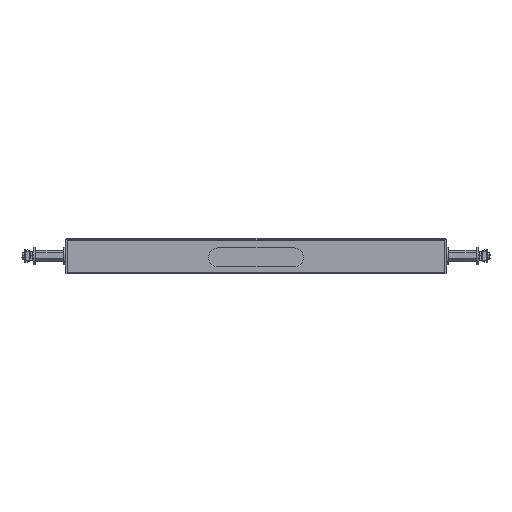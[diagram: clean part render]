
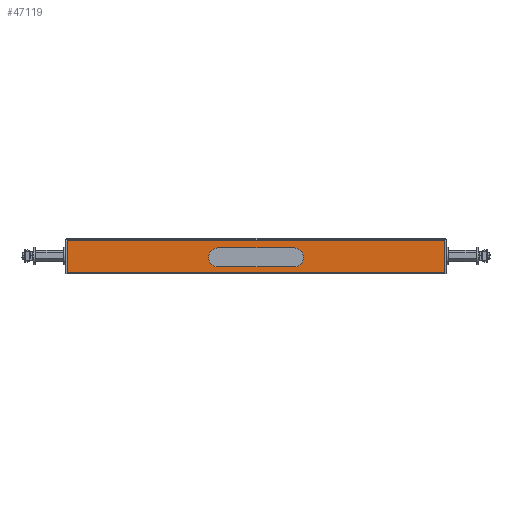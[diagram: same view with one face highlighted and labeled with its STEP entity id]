
A CAD part, top view. The second image highlights one B-rep face of the part: STEP entity #47119.
In plain terms, the highlighted planar face has unit normal (0, 0, 1) as drawn and (0, -1, 0) by its records, which use the part's own axes.
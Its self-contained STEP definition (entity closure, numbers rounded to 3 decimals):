
#1494 = ORIENTED_EDGE ( 'NONE', *, *, #6373, .F. ) ;
#1837 = CARTESIAN_POINT ( 'NONE',  ( 160., 0., -8.65 ) ) ;
#3406 = LINE ( 'NONE', #21096, #30186 ) ;
#5061 = CIRCLE ( 'NONE', #22679, 10. ) ;
#5523 = VECTOR ( 'NONE', #50519, 1000. ) ;
#5793 = ORIENTED_EDGE ( 'NONE', *, *, #22350, .F. ) ;
#6331 = VECTOR ( 'NONE', #37131, 1000. ) ;
#6358 = DIRECTION ( 'NONE',  ( 1., 0., 0. ) ) ;
#6373 = EDGE_CURVE ( 'NONE', #35668, #12082, #36860, .T. ) ;
#9587 = VERTEX_POINT ( 'NONE', #45643 ) ;
#10664 = FACE_BOUND ( 'NONE', #38357, .T. ) ;
#10687 = EDGE_CURVE ( 'NONE', #53211, #12082, #11669, .T. ) ;
#10947 = LINE ( 'NONE', #16644, #5523 ) ;
#11153 = ORIENTED_EDGE ( 'NONE', *, *, #20147, .F. ) ;
#11561 = CARTESIAN_POINT ( 'NONE',  ( 398.55, 0., -1. ) ) ;
#11616 = VECTOR ( 'NONE', #49029, 1000. ) ;
#11669 = LINE ( 'NONE', #29379, #19480 ) ;
#11791 = FACE_OUTER_BOUND ( 'NONE', #50356, .T. ) ;
#12082 = VERTEX_POINT ( 'NONE', #45648 ) ;
#12156 = VERTEX_POINT ( 'NONE', #14242 ) ;
#13425 = CARTESIAN_POINT ( 'NONE',  ( 1.45, 0., -1. ) ) ;
#14242 = CARTESIAN_POINT ( 'NONE',  ( 240., 0., -28.65 ) ) ;
#14508 = ORIENTED_EDGE ( 'NONE', *, *, #10687, .T. ) ;
#15244 = AXIS2_PLACEMENT_3D ( 'NONE', #33879, #33296, #42609 ) ;
#16292 = VERTEX_POINT ( 'NONE', #51264 ) ;
#16644 = CARTESIAN_POINT ( 'NONE',  ( 160., 0., -8.65 ) ) ;
#17020 = DIRECTION ( 'NONE',  ( 0., -1., 0. ) ) ;
#18889 = VECTOR ( 'NONE', #6358, 1000. ) ;
#19426 = VERTEX_POINT ( 'NONE', #1837 ) ;
#19480 = VECTOR ( 'NONE', #41358, 1000. ) ;
#20147 = EDGE_CURVE ( 'NONE', #12156, #9587, #5061, .T. ) ;
#21096 = CARTESIAN_POINT ( 'NONE',  ( 1.45, 0., -1. ) ) ;
#22041 = CARTESIAN_POINT ( 'NONE',  ( 240., 0., -18.65 ) ) ;
#22260 = EDGE_CURVE ( 'NONE', #45824, #53211, #3406, .T. ) ;
#22350 = EDGE_CURVE ( 'NONE', #45824, #35668, #54253, .T. ) ;
#22525 = CARTESIAN_POINT ( 'NONE',  ( 160., 0., -18.65 ) ) ;
#22679 = AXIS2_PLACEMENT_3D ( 'NONE', #22041, #39785, #43017 ) ;
#23689 = CARTESIAN_POINT ( 'NONE',  ( 397.65, 0., -1. ) ) ;
#24722 = AXIS2_PLACEMENT_3D ( 'NONE', #22525, #17020, #48431 ) ;
#29379 = CARTESIAN_POINT ( 'NONE',  ( 2.35, 0., -34.65 ) ) ;
#29736 = ORIENTED_EDGE ( 'NONE', *, *, #22260, .T. ) ;
#30186 = VECTOR ( 'NONE', #57192, 1000. ) ;
#33296 = DIRECTION ( 'NONE',  ( 0., 1., 0. ) ) ;
#33879 = CARTESIAN_POINT ( 'NONE',  ( 2.35, 0., 0. ) ) ;
#35029 = CARTESIAN_POINT ( 'NONE',  ( 1.45, 0., -34.65 ) ) ;
#35668 = VERTEX_POINT ( 'NONE', #36449 ) ;
#36449 = CARTESIAN_POINT ( 'NONE',  ( 398.55, 0., -1. ) ) ;
#36860 = LINE ( 'NONE', #11561, #6331 ) ;
#37131 = DIRECTION ( 'NONE',  ( 0., 0., -1. ) ) ;
#38357 = EDGE_LOOP ( 'NONE', ( #43536, #43794, #44857, #11153 ) ) ;
#39785 = DIRECTION ( 'NONE',  ( 0., -1., 0. ) ) ;
#41358 = DIRECTION ( 'NONE',  ( 1., 0., 0. ) ) ;
#41831 = CARTESIAN_POINT ( 'NONE',  ( 240., 0., -28.65 ) ) ;
#42609 = DIRECTION ( 'NONE',  ( 0., 0., 1. ) ) ;
#42679 = LINE ( 'NONE', #41831, #18889 ) ;
#43017 = DIRECTION ( 'NONE',  ( 0., 0., 1. ) ) ;
#43536 = ORIENTED_EDGE ( 'NONE', *, *, #46642, .F. ) ;
#43794 = ORIENTED_EDGE ( 'NONE', *, *, #50790, .F. ) ;
#44857 = ORIENTED_EDGE ( 'NONE', *, *, #54642, .F. ) ;
#45643 = CARTESIAN_POINT ( 'NONE',  ( 240., 0., -8.65 ) ) ;
#45648 = CARTESIAN_POINT ( 'NONE',  ( 398.55, 0., -34.65 ) ) ;
#45824 = VERTEX_POINT ( 'NONE', #13425 ) ;
#46642 = EDGE_CURVE ( 'NONE', #16292, #12156, #42679, .T. ) ;
#47119 = ADVANCED_FACE ( 'NONE', ( #10664, #11791 ), #51361, .F. ) ;
#48431 = DIRECTION ( 'NONE',  ( 0., 0., 1. ) ) ;
#49029 = DIRECTION ( 'NONE',  ( 1., 0., 0. ) ) ;
#49824 = CIRCLE ( 'NONE', #24722, 10. ) ;
#50356 = EDGE_LOOP ( 'NONE', ( #5793, #29736, #14508, #1494 ) ) ;
#50519 = DIRECTION ( 'NONE',  ( -1., 0., 0. ) ) ;
#50790 = EDGE_CURVE ( 'NONE', #19426, #16292, #49824, .T. ) ;
#51264 = CARTESIAN_POINT ( 'NONE',  ( 160., 0., -28.65 ) ) ;
#51361 = PLANE ( 'NONE',  #15244 ) ;
#53211 = VERTEX_POINT ( 'NONE', #35029 ) ;
#54253 = LINE ( 'NONE', #23689, #11616 ) ;
#54642 = EDGE_CURVE ( 'NONE', #9587, #19426, #10947, .T. ) ;
#57192 = DIRECTION ( 'NONE',  ( 0., 0., -1. ) ) ;
